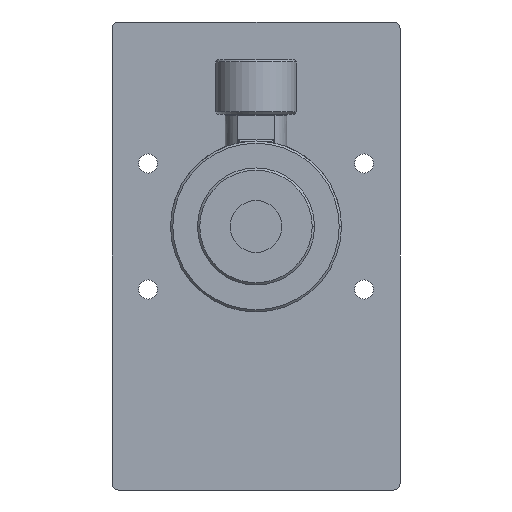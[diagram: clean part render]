
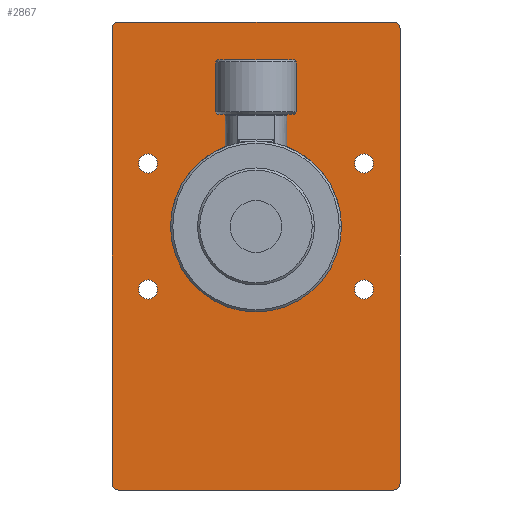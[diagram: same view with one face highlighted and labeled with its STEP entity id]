
A CAD part, front view. The second image highlights one B-rep face of the part: STEP entity #2867.
In plain terms, the highlighted planar face has unit normal (0, -1, 0).
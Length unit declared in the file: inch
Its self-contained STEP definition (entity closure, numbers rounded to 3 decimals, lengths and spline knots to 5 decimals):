
#2438=CARTESIAN_POINT('',(0.,1.095,0.));
#2439=DIRECTION('',(0.,-1.,0.));
#2440=DIRECTION('',(-1.,0.,0.));
#2441=AXIS2_PLACEMENT_3D('',#2438,#2439,#2440);
#2443=CARTESIAN_POINT('',(0.,1.095,0.));
#2444=DIRECTION('',(0.,-1.,0.));
#2445=DIRECTION('',(1.,0.,0.));
#2446=AXIS2_PLACEMENT_3D('',#2443,#2444,#2445);
#2448=CARTESIAN_POINT('',(-1.906,1.095,2.746));
#2449=DIRECTION('',(0.,-1.,0.));
#2450=DIRECTION('',(0.,0.,1.));
#2451=AXIS2_PLACEMENT_3D('',#2448,#2449,#2450);
#2453=DIRECTION('',(1.,0.,0.));
#2454=VECTOR('',#2453,3.812);
#2455=CARTESIAN_POINT('',(-1.906,1.095,2.84));
#2456=LINE('',#2455,#2454);
#2457=CARTESIAN_POINT('',(1.906,1.095,2.746));
#2458=DIRECTION('',(0.,-1.,0.));
#2459=DIRECTION('',(1.,0.,0.));
#2460=AXIS2_PLACEMENT_3D('',#2457,#2458,#2459);
#2462=DIRECTION('',(0.,0.,-1.));
#2463=VECTOR('',#2462,6.312);
#2464=CARTESIAN_POINT('',(2.,1.095,2.746));
#2465=LINE('',#2464,#2463);
#2466=CARTESIAN_POINT('',(1.906,1.095,-3.566));
#2467=DIRECTION('',(0.,-1.,0.));
#2468=DIRECTION('',(0.,0.,-1.));
#2469=AXIS2_PLACEMENT_3D('',#2466,#2467,#2468);
#2471=DIRECTION('',(-1.,0.,0.));
#2472=VECTOR('',#2471,3.812);
#2473=CARTESIAN_POINT('',(1.906,1.095,-3.66));
#2474=LINE('',#2473,#2472);
#2475=CARTESIAN_POINT('',(-1.906,1.095,-3.566));
#2476=DIRECTION('',(0.,-1.,0.));
#2477=DIRECTION('',(-1.,0.,0.));
#2478=AXIS2_PLACEMENT_3D('',#2475,#2476,#2477);
#2480=DIRECTION('',(0.,0.,1.));
#2481=VECTOR('',#2480,6.312);
#2482=CARTESIAN_POINT('',(-2.,1.095,-3.566));
#2483=LINE('',#2482,#2481);
#2484=CARTESIAN_POINT('',(1.,1.095,0.));
#2485=DIRECTION('',(0.,-1.,0.));
#2486=DIRECTION('',(1.,0.,0.));
#2487=AXIS2_PLACEMENT_3D('',#2484,#2485,#2486);
#2489=CARTESIAN_POINT('',(1.,1.095,0.));
#2490=DIRECTION('',(0.,-1.,0.));
#2491=DIRECTION('',(-1.,0.,0.));
#2492=AXIS2_PLACEMENT_3D('',#2489,#2490,#2491);
#2494=CARTESIAN_POINT('',(-1.,1.095,0.));
#2495=DIRECTION('',(0.,-1.,0.));
#2496=DIRECTION('',(1.,0.,0.));
#2497=AXIS2_PLACEMENT_3D('',#2494,#2495,#2496);
#2499=CARTESIAN_POINT('',(-1.,1.095,0.));
#2500=DIRECTION('',(0.,-1.,0.));
#2501=DIRECTION('',(-1.,0.,0.));
#2502=AXIS2_PLACEMENT_3D('',#2499,#2500,#2501);
#2504=CARTESIAN_POINT('',(-1.5,1.095,0.875));
#2505=DIRECTION('',(0.,1.,0.));
#2506=DIRECTION('',(-1.,0.,0.));
#2507=AXIS2_PLACEMENT_3D('',#2504,#2505,#2506);
#2509=CARTESIAN_POINT('',(-1.5,1.095,0.875));
#2510=DIRECTION('',(0.,1.,0.));
#2511=DIRECTION('',(1.,0.,0.));
#2512=AXIS2_PLACEMENT_3D('',#2509,#2510,#2511);
#2514=CARTESIAN_POINT('',(-1.5,1.095,-0.875));
#2515=DIRECTION('',(0.,1.,0.));
#2516=DIRECTION('',(-1.,0.,0.));
#2517=AXIS2_PLACEMENT_3D('',#2514,#2515,#2516);
#2519=CARTESIAN_POINT('',(-1.5,1.095,-0.875));
#2520=DIRECTION('',(0.,1.,0.));
#2521=DIRECTION('',(1.,0.,0.));
#2522=AXIS2_PLACEMENT_3D('',#2519,#2520,#2521);
#2524=CARTESIAN_POINT('',(1.5,1.095,-0.875));
#2525=DIRECTION('',(0.,1.,0.));
#2526=DIRECTION('',(-1.,0.,0.));
#2527=AXIS2_PLACEMENT_3D('',#2524,#2525,#2526);
#2529=CARTESIAN_POINT('',(1.5,1.095,-0.875));
#2530=DIRECTION('',(0.,1.,0.));
#2531=DIRECTION('',(1.,0.,0.));
#2532=AXIS2_PLACEMENT_3D('',#2529,#2530,#2531);
#2534=CARTESIAN_POINT('',(1.5,1.095,0.875));
#2535=DIRECTION('',(0.,1.,0.));
#2536=DIRECTION('',(-1.,0.,0.));
#2537=AXIS2_PLACEMENT_3D('',#2534,#2535,#2536);
#2539=CARTESIAN_POINT('',(1.5,1.095,0.875));
#2540=DIRECTION('',(0.,1.,0.));
#2541=DIRECTION('',(1.,0.,0.));
#2542=AXIS2_PLACEMENT_3D('',#2539,#2540,#2541);
#2714=CARTESIAN_POINT('',(-0.84,1.095,0.));
#2715=CARTESIAN_POINT('',(0.84,1.095,0.));
#2716=VERTEX_POINT('',#2714);
#2717=VERTEX_POINT('',#2715);
#2722=CARTESIAN_POINT('',(-1.906,1.095,2.84));
#2723=CARTESIAN_POINT('',(-2.,1.095,2.746));
#2724=VERTEX_POINT('',#2722);
#2725=VERTEX_POINT('',#2723);
#2730=CARTESIAN_POINT('',(2.,1.095,2.746));
#2731=CARTESIAN_POINT('',(1.906,1.095,2.84));
#2732=VERTEX_POINT('',#2730);
#2733=VERTEX_POINT('',#2731);
#2738=CARTESIAN_POINT('',(1.906,1.095,-3.66));
#2739=CARTESIAN_POINT('',(2.,1.095,-3.566));
#2740=VERTEX_POINT('',#2738);
#2741=VERTEX_POINT('',#2739);
#2746=CARTESIAN_POINT('',(-2.,1.095,-3.566));
#2747=CARTESIAN_POINT('',(-1.906,1.095,-3.66));
#2748=VERTEX_POINT('',#2746);
#2749=VERTEX_POINT('',#2747);
#2754=CARTESIAN_POINT('',(0.91,1.095,0.));
#2755=CARTESIAN_POINT('',(1.09,1.095,0.));
#2756=VERTEX_POINT('',#2754);
#2757=VERTEX_POINT('',#2755);
#2758=CARTESIAN_POINT('',(-1.09,1.095,0.));
#2759=CARTESIAN_POINT('',(-0.91,1.095,0.));
#2760=VERTEX_POINT('',#2758);
#2761=VERTEX_POINT('',#2759);
#2770=CARTESIAN_POINT('',(-1.6325,1.095,0.875));
#2771=CARTESIAN_POINT('',(-1.3675,1.095,0.875));
#2772=VERTEX_POINT('',#2770);
#2773=VERTEX_POINT('',#2771);
#2774=CARTESIAN_POINT('',(-1.6325,1.095,-0.875));
#2775=CARTESIAN_POINT('',(-1.3675,1.095,-0.875));
#2776=VERTEX_POINT('',#2774);
#2777=VERTEX_POINT('',#2775);
#2778=CARTESIAN_POINT('',(1.3675,1.095,-0.875));
#2779=CARTESIAN_POINT('',(1.6325,1.095,-0.875));
#2780=VERTEX_POINT('',#2778);
#2781=VERTEX_POINT('',#2779);
#2782=CARTESIAN_POINT('',(1.3675,1.095,0.875));
#2783=CARTESIAN_POINT('',(1.6325,1.095,0.875));
#2784=VERTEX_POINT('',#2782);
#2785=VERTEX_POINT('',#2783);
#2802=CARTESIAN_POINT('',(0.,1.095,0.));
#2803=DIRECTION('',(0.,1.,0.));
#2804=DIRECTION('',(-1.,0.,0.));
#2805=AXIS2_PLACEMENT_3D('',#2802,#2803,#2804);
#2806=PLANE('',#2805);
#2808=ORIENTED_EDGE('',*,*,#2807,.F.);
#2810=ORIENTED_EDGE('',*,*,#2809,.T.);
#2812=ORIENTED_EDGE('',*,*,#2811,.F.);
#2814=ORIENTED_EDGE('',*,*,#2813,.T.);
#2816=ORIENTED_EDGE('',*,*,#2815,.F.);
#2818=ORIENTED_EDGE('',*,*,#2817,.T.);
#2820=ORIENTED_EDGE('',*,*,#2819,.F.);
#2822=ORIENTED_EDGE('',*,*,#2821,.T.);
#2823=EDGE_LOOP('',(#2808,#2810,#2812,#2814,#2816,#2818,#2820,#2822));
#2824=FACE_OUTER_BOUND('',#2823,.F.);
#2826=ORIENTED_EDGE('',*,*,#2825,.T.);
#2828=ORIENTED_EDGE('',*,*,#2827,.T.);
#2829=EDGE_LOOP('',(#2826,#2828));
#2830=FACE_BOUND('',#2829,.F.);
#2832=ORIENTED_EDGE('',*,*,#2831,.T.);
#2834=ORIENTED_EDGE('',*,*,#2833,.T.);
#2835=EDGE_LOOP('',(#2832,#2834));
#2836=FACE_BOUND('',#2835,.F.);
#2838=ORIENTED_EDGE('',*,*,#2837,.T.);
#2840=ORIENTED_EDGE('',*,*,#2839,.T.);
#2841=EDGE_LOOP('',(#2838,#2840));
#2842=FACE_BOUND('',#2841,.F.);
#2844=ORIENTED_EDGE('',*,*,#2843,.F.);
#2846=ORIENTED_EDGE('',*,*,#2845,.F.);
#2847=EDGE_LOOP('',(#2844,#2846));
#2848=FACE_BOUND('',#2847,.F.);
#2850=ORIENTED_EDGE('',*,*,#2849,.F.);
#2852=ORIENTED_EDGE('',*,*,#2851,.F.);
#2853=EDGE_LOOP('',(#2850,#2852));
#2854=FACE_BOUND('',#2853,.F.);
#2856=ORIENTED_EDGE('',*,*,#2855,.F.);
#2858=ORIENTED_EDGE('',*,*,#2857,.F.);
#2859=EDGE_LOOP('',(#2856,#2858));
#2860=FACE_BOUND('',#2859,.F.);
#2862=ORIENTED_EDGE('',*,*,#2861,.F.);
#2864=ORIENTED_EDGE('',*,*,#2863,.F.);
#2865=EDGE_LOOP('',(#2862,#2864));
#2866=FACE_BOUND('',#2865,.F.);
#2867=ADVANCED_FACE('',(#2824,#2830,#2836,#2842,#2848,#2854,#2860,#2866),#2806,
.F.);
#2442=CIRCLE('',#2441,0.84);
#2447=CIRCLE('',#2446,0.84);
#2452=CIRCLE('',#2451,0.094);
#2461=CIRCLE('',#2460,0.094);
#2470=CIRCLE('',#2469,0.094);
#2479=CIRCLE('',#2478,0.094);
#2488=CIRCLE('',#2487,0.09);
#2493=CIRCLE('',#2492,0.09);
#2498=CIRCLE('',#2497,0.09);
#2503=CIRCLE('',#2502,0.09);
#2508=CIRCLE('',#2507,0.1325);
#2513=CIRCLE('',#2512,0.1325);
#2518=CIRCLE('',#2517,0.1325);
#2523=CIRCLE('',#2522,0.1325);
#2528=CIRCLE('',#2527,0.1325);
#2533=CIRCLE('',#2532,0.1325);
#2538=CIRCLE('',#2537,0.1325);
#2543=CIRCLE('',#2542,0.1325);
#2807=EDGE_CURVE('',#2724,#2725,#2452,.T.);
#2809=EDGE_CURVE('',#2724,#2733,#2456,.T.);
#2811=EDGE_CURVE('',#2732,#2733,#2461,.T.);
#2813=EDGE_CURVE('',#2732,#2741,#2465,.T.);
#2815=EDGE_CURVE('',#2740,#2741,#2470,.T.);
#2817=EDGE_CURVE('',#2740,#2749,#2474,.T.);
#2819=EDGE_CURVE('',#2748,#2749,#2479,.T.);
#2821=EDGE_CURVE('',#2748,#2725,#2483,.T.);
#2825=EDGE_CURVE('',#2716,#2717,#2442,.T.);
#2827=EDGE_CURVE('',#2717,#2716,#2447,.T.);
#2831=EDGE_CURVE('',#2757,#2756,#2488,.T.);
#2833=EDGE_CURVE('',#2756,#2757,#2493,.T.);
#2837=EDGE_CURVE('',#2761,#2760,#2498,.T.);
#2839=EDGE_CURVE('',#2760,#2761,#2503,.T.);
#2843=EDGE_CURVE('',#2772,#2773,#2508,.T.);
#2845=EDGE_CURVE('',#2773,#2772,#2513,.T.);
#2849=EDGE_CURVE('',#2776,#2777,#2518,.T.);
#2851=EDGE_CURVE('',#2777,#2776,#2523,.T.);
#2855=EDGE_CURVE('',#2780,#2781,#2528,.T.);
#2857=EDGE_CURVE('',#2781,#2780,#2533,.T.);
#2861=EDGE_CURVE('',#2784,#2785,#2538,.T.);
#2863=EDGE_CURVE('',#2785,#2784,#2543,.T.);
